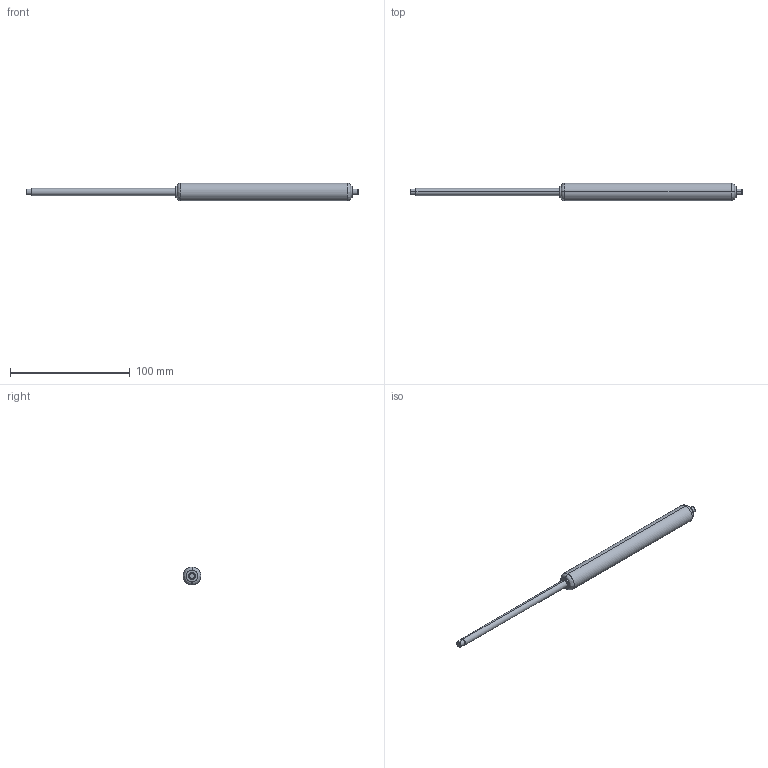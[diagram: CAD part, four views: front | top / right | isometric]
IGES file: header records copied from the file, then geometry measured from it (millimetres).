
Start section: SolidWorks IGES file using analytic representation for surfaces
Bounding box: 277 x 15 x 15 mm (x, y, z)
Surface area: 9534.9 mm2 (no closed solid volume)
Topology: 0 solids, 0 shells, 25 faces, 336 edges, 336 vertices
Faces by surface type: revolution 16, bspline 9
